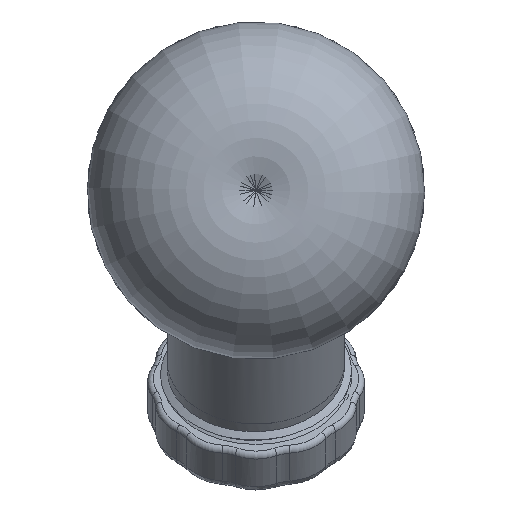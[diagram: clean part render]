
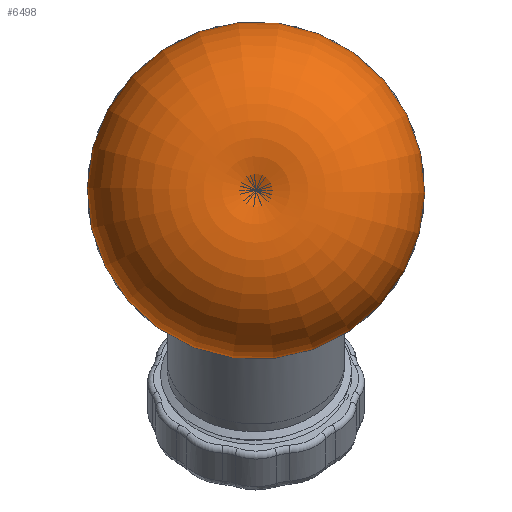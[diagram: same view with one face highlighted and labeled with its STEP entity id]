
A CAD part, top view. The second image highlights one B-rep face of the part: STEP entity #6498.
In plain terms, the highlighted toroidal (fillet/blend) face has major radius 28.194 mm and minor radius 62.738 mm.
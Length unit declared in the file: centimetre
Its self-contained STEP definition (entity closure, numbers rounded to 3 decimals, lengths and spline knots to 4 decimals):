
#247=DEGENERATE_TOROIDAL_SURFACE('',#6982,2.8194,6.2738,.F.);
#352=CIRCLE('',#6983,3.4544);
#353=CIRCLE('',#6984,3.0432);
#927=B_SPLINE_CURVE_WITH_KNOTS('',3,(#11842,#11843,#11844,#11845,#11846,
#11847,#11848,#11849,#11850,#11851),.UNSPECIFIED.,.F.,.U.,(4,2,2,2,4),(-1.8537,
-1.6161,-1.2358,-0.6274,0.),
 .UNSPECIFIED.);
#928=B_SPLINE_CURVE_WITH_KNOTS('',3,(#11855,#11856,#11857,#11858,#11859,
#11860,#11861,#11862,#11863,#11864),.UNSPECIFIED.,.F.,.U.,(4,3,3,4),(0.,
1.3104,3.4072,3.7041),.UNSPECIFIED.);
#929=B_SPLINE_CURVE_WITH_KNOTS('',3,(#11868,#11869,#11870,#11871,#11872,
#11873,#11874),.UNSPECIFIED.,.F.,.U.,(4,3,4),(14.798,15.7134,
18.5031),.UNSPECIFIED.);
#1383=VERTEX_POINT('',#10840);
#1401=VERTEX_POINT('',#11780);
#1402=VERTEX_POINT('',#11854);
#1403=VERTEX_POINT('',#11865);
#1404=VERTEX_POINT('',#11867);
#2399=EDGE_CURVE('',#1401,#1383,#927,.F.);
#2400=EDGE_CURVE('',#1402,#1401,#352,.T.);
#2401=EDGE_CURVE('',#1403,#1402,#928,.T.);
#2402=EDGE_CURVE('',#1403,#1404,#353,.T.);
#2403=EDGE_CURVE('',#1383,#1404,#929,.T.);
#3477=ORIENTED_EDGE('',*,*,#2399,.F.);
#3478=ORIENTED_EDGE('',*,*,#2400,.F.);
#3479=ORIENTED_EDGE('',*,*,#2401,.F.);
#3480=ORIENTED_EDGE('',*,*,#2402,.T.);
#3481=ORIENTED_EDGE('',*,*,#2403,.F.);
#5443=EDGE_LOOP('',(#3477,#3478,#3479,#3480,#3481));
#5972=FACE_BOUND('',#5443,.T.);
#6498=ADVANCED_FACE('',(#5972),#247,.T.);
#6982=AXIS2_PLACEMENT_3D('',#11852,#7778,$);
#6983=AXIS2_PLACEMENT_3D('',#11853,#7779,#7780);
#6984=AXIS2_PLACEMENT_3D('',#11866,#7781,#7782);
#7778=DIRECTION('',(0.,0.,1.));
#7779=DIRECTION('',(0.,0.,1.));
#7780=DIRECTION('',(0.,3.454,0.));
#7781=DIRECTION('',(0.,0.,1.));
#7782=DIRECTION('',(0.,3.043,0.));
#10840=CARTESIAN_POINT('',(-3.3614,0.1522,-2.6229));
#11780=CARTESIAN_POINT('',(-3.1921,1.3204,-1.5665));
#11842=CARTESIAN_POINT('',(-3.3614,0.1522,-2.6229));
#11843=CARTESIAN_POINT('',(-3.3596,0.2216,-2.6146));
#11844=CARTESIAN_POINT('',(-3.3567,0.2908,-2.6007));
#11845=CARTESIAN_POINT('',(-3.3462,0.4666,-2.5502));
#11846=CARTESIAN_POINT('',(-3.337,0.5705,-2.5054));
#11847=CARTESIAN_POINT('',(-3.3077,0.8249,-2.3549));
#11848=CARTESIAN_POINT('',(-3.2846,0.9628,-2.2304));
#11849=CARTESIAN_POINT('',(-3.2367,1.1876,-1.9305));
#11850=CARTESIAN_POINT('',(-3.212,1.2722,-1.7535));
#11851=CARTESIAN_POINT('',(-3.1921,1.3204,-1.5665));
#11852=CARTESIAN_POINT('',(0.,0.,-1.5665));
#11853=CARTESIAN_POINT('',(0.,0.,-1.5665));
#11854=CARTESIAN_POINT('',(3.3244,-0.9386,-1.5665));
#11855=CARTESIAN_POINT('',(2.7742,1.251,-3.8004));
#11856=CARTESIAN_POINT('',(2.9721,1.037,-3.5579));
#11857=CARTESIAN_POINT('',(3.1292,0.7964,-3.2954));
#11858=CARTESIAN_POINT('',(3.2367,0.5425,-3.0276));
#11859=CARTESIAN_POINT('',(3.4089,0.1363,-2.5992));
#11860=CARTESIAN_POINT('',(3.4564,-0.3079,-2.1532));
#11861=CARTESIAN_POINT('',(3.3693,-0.7509,-1.7397));
#11862=CARTESIAN_POINT('',(3.357,-0.8137,-1.6812));
#11863=CARTESIAN_POINT('',(3.342,-0.8762,-1.6234));
#11864=CARTESIAN_POINT('',(3.3244,-0.9386,-1.5665));
#11865=CARTESIAN_POINT('',(2.7742,1.251,-3.8004));
#11866=CARTESIAN_POINT('',(0.,0.,-3.8004));
#11867=CARTESIAN_POINT('',(-2.7742,1.251,-3.8004));
#11868=CARTESIAN_POINT('',(-3.3244,-0.9386,-1.5665));
#11869=CARTESIAN_POINT('',(-3.3787,-0.7463,-1.7421));
#11870=CARTESIAN_POINT('',(-3.4079,-0.5519,-1.9258));
#11871=CARTESIAN_POINT('',(-3.4117,-0.3592,-2.1132));
#11872=CARTESIAN_POINT('',(-3.4233,0.2279,-2.6843));
#11873=CARTESIAN_POINT('',(-3.1956,0.7952,-3.2839));
#11874=CARTESIAN_POINT('',(-2.7742,1.251,-3.8004));
